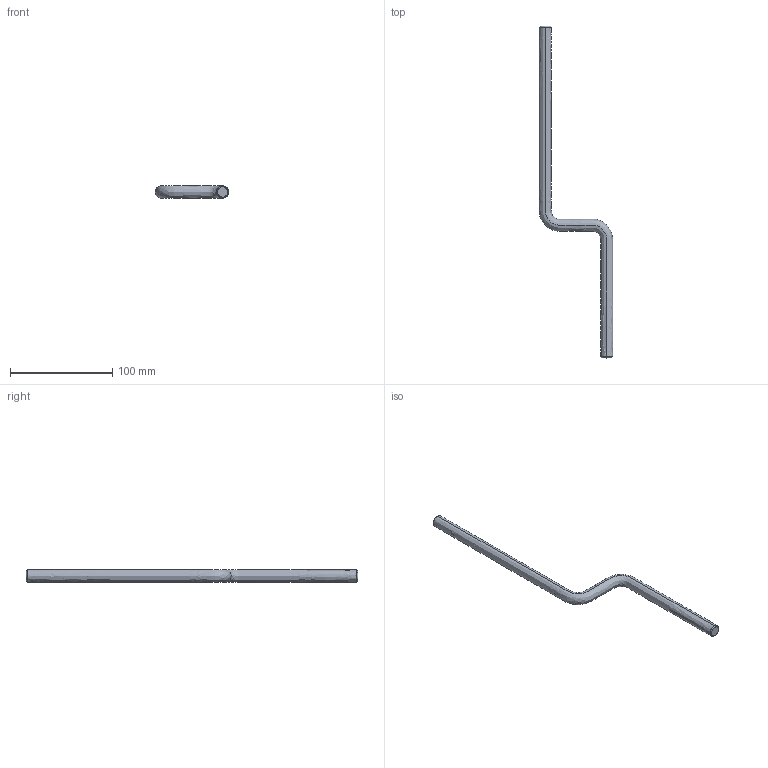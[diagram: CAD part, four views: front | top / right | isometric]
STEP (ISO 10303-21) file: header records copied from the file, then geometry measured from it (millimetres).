
FILE_DESCRIPTION (( 'STEP AP214' ), '1' );
FILE_NAME ('067RCB1BRS011.STEP', '2024-09-04T08:16:43', ( '' ), ( '' ), 'SwSTEP 2.0', 'SolidWorks 2023', '' );
FILE_SCHEMA (( 'AUTOMOTIVE_DESIGN' ));
Length unit declared in the file: millimetre
Products named in the file (1): 067RCB1BRS011
Bounding box: 72.01 x 325 x 12 mm (x, y, z)
Volume: 41966.1 mm3; surface area: 14230.3 mm2
Topology: 1 solids, 1 shells, 8 faces, 16 edges, 10 vertices
Faces by surface type: bspline 6, plane 2
Entity records: 3523 total; most frequent: CARTESIAN_POINT 3389, ORIENTED_EDGE 32, EDGE_CURVE 16, VERTEX_POINT 10, B_SPLINE_CURVE_WITH_KNOTS 10, ADVANCED_FACE 8, FACE_OUTER_BOUND 8, EDGE_LOOP 8
